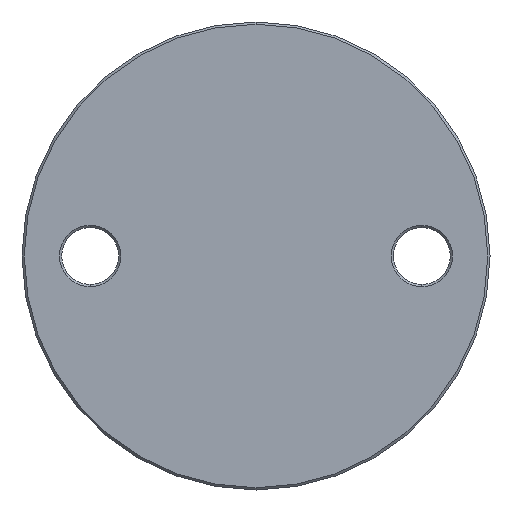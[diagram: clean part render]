
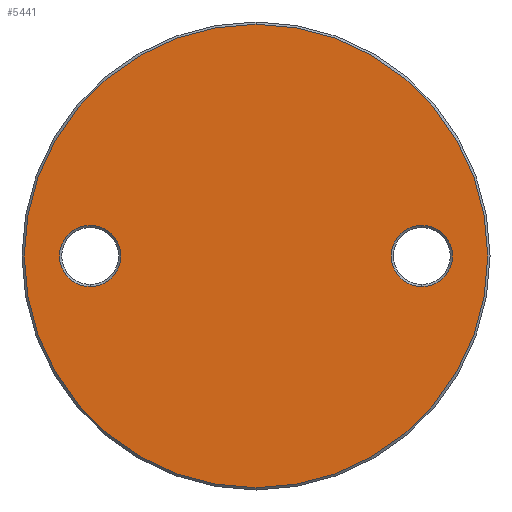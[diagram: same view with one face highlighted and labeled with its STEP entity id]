
A CAD part, front view. The second image highlights one B-rep face of the part: STEP entity #5441.
In plain terms, the highlighted planar face has unit normal (0, -1, 0).
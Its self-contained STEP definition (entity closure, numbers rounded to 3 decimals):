
#8 = CARTESIAN_POINT ( 'NONE',  ( -36.5, -3., 0. ) ) ;
#234 = FACE_OUTER_BOUND ( 'NONE', #4557, .T. ) ;
#313 = CARTESIAN_POINT ( 'NONE',  ( 36.5, -3., 0. ) ) ;
#401 = CARTESIAN_POINT ( 'NONE',  ( -36.5, -3., 6.75 ) ) ;
#639 = DIRECTION ( 'NONE',  ( 0., 0., -1. ) ) ;
#670 = FACE_BOUND ( 'NONE', #2379, .T. ) ;
#957 = AXIS2_PLACEMENT_3D ( 'NONE', #8, #6780, #639 ) ;
#1034 = DIRECTION ( 'NONE',  ( 0., 1., 0. ) ) ;
#1083 = ORIENTED_EDGE ( 'NONE', *, *, #3426, .T. ) ;
#1396 = CARTESIAN_POINT ( 'NONE',  ( 0., -3., 51.5 ) ) ;
#1592 = AXIS2_PLACEMENT_3D ( 'NONE', #6074, #2003, #6760 ) ;
#1623 = CIRCLE ( 'NONE', #1592, 6.75 ) ;
#1694 = ORIENTED_EDGE ( 'NONE', *, *, #5961, .T. ) ;
#1720 = AXIS2_PLACEMENT_3D ( 'NONE', #8446, #5795, #3080 ) ;
#1827 = DIRECTION ( 'NONE',  ( 0., 0., -1. ) ) ;
#1903 = EDGE_CURVE ( 'NONE', #6784, #6301, #2811, .T. ) ;
#1970 = AXIS2_PLACEMENT_3D ( 'NONE', #313, #1034, #3701 ) ;
#1993 = DIRECTION ( 'NONE',  ( 0., 1., 0. ) ) ;
#2003 = DIRECTION ( 'NONE',  ( 0., 1., 0. ) ) ;
#2379 = EDGE_LOOP ( 'NONE', ( #6787, #3176 ) ) ;
#2811 = CIRCLE ( 'NONE', #1970, 6.75 ) ;
#2993 = CARTESIAN_POINT ( 'NONE',  ( 0., -3., -51. ) ) ;
#3006 = AXIS2_PLACEMENT_3D ( 'NONE', #4541, #8628, #1827 ) ;
#3080 = DIRECTION ( 'NONE',  ( 0., 0., -1. ) ) ;
#3176 = ORIENTED_EDGE ( 'NONE', *, *, #4055, .T. ) ;
#3426 = EDGE_CURVE ( 'NONE', #4318, #3960, #7541, .T. ) ;
#3533 = PLANE ( 'NONE',  #5599 ) ;
#3701 = DIRECTION ( 'NONE',  ( 0., 0., -1. ) ) ;
#3875 = CARTESIAN_POINT ( 'NONE',  ( 36.5, -3., 6.75 ) ) ;
#3960 = VERTEX_POINT ( 'NONE', #2993 ) ;
#4055 = EDGE_CURVE ( 'NONE', #6301, #6784, #5616, .T. ) ;
#4254 = VERTEX_POINT ( 'NONE', #401 ) ;
#4318 = VERTEX_POINT ( 'NONE', #6072 ) ;
#4541 = CARTESIAN_POINT ( 'NONE',  ( 0., -3., 0. ) ) ;
#4557 = EDGE_LOOP ( 'NONE', ( #1083, #6576 ) ) ;
#4671 = VERTEX_POINT ( 'NONE', #5189 ) ;
#4834 = DIRECTION ( 'NONE',  ( 0., 0., -1. ) ) ;
#5189 = CARTESIAN_POINT ( 'NONE',  ( -36.5, -3., -6.75 ) ) ;
#5365 = DIRECTION ( 'NONE',  ( 0., 0., -1. ) ) ;
#5441 = ADVANCED_FACE ( 'NONE', ( #670, #5690, #234 ), #3533, .T. ) ;
#5581 = DIRECTION ( 'NONE',  ( 0., -1., 0. ) ) ;
#5599 = AXIS2_PLACEMENT_3D ( 'NONE', #1396, #5581, #4834 ) ;
#5616 = CIRCLE ( 'NONE', #7242, 6.75 ) ;
#5690 = FACE_BOUND ( 'NONE', #8678, .T. ) ;
#5795 = DIRECTION ( 'NONE',  ( 0., -1., 0. ) ) ;
#5961 = EDGE_CURVE ( 'NONE', #4671, #4254, #1623, .T. ) ;
#6072 = CARTESIAN_POINT ( 'NONE',  ( 0., -3., 51. ) ) ;
#6074 = CARTESIAN_POINT ( 'NONE',  ( -36.5, -3., 0. ) ) ;
#6301 = VERTEX_POINT ( 'NONE', #3875 ) ;
#6440 = EDGE_CURVE ( 'NONE', #4254, #4671, #8032, .T. ) ;
#6576 = ORIENTED_EDGE ( 'NONE', *, *, #8217, .T. ) ;
#6760 = DIRECTION ( 'NONE',  ( 0., 0., -1. ) ) ;
#6780 = DIRECTION ( 'NONE',  ( 0., 1., 0. ) ) ;
#6784 = VERTEX_POINT ( 'NONE', #7732 ) ;
#6787 = ORIENTED_EDGE ( 'NONE', *, *, #1903, .T. ) ;
#7242 = AXIS2_PLACEMENT_3D ( 'NONE', #7472, #1993, #5365 ) ;
#7472 = CARTESIAN_POINT ( 'NONE',  ( 36.5, -3., 0. ) ) ;
#7541 = CIRCLE ( 'NONE', #3006, 51. ) ;
#7672 = CIRCLE ( 'NONE', #1720, 51. ) ;
#7732 = CARTESIAN_POINT ( 'NONE',  ( 36.5, -3., -6.75 ) ) ;
#8032 = CIRCLE ( 'NONE', #957, 6.75 ) ;
#8217 = EDGE_CURVE ( 'NONE', #3960, #4318, #7672, .T. ) ;
#8446 = CARTESIAN_POINT ( 'NONE',  ( 0., -3., 0. ) ) ;
#8526 = ORIENTED_EDGE ( 'NONE', *, *, #6440, .T. ) ;
#8628 = DIRECTION ( 'NONE',  ( 0., -1., 0. ) ) ;
#8678 = EDGE_LOOP ( 'NONE', ( #1694, #8526 ) ) ;
